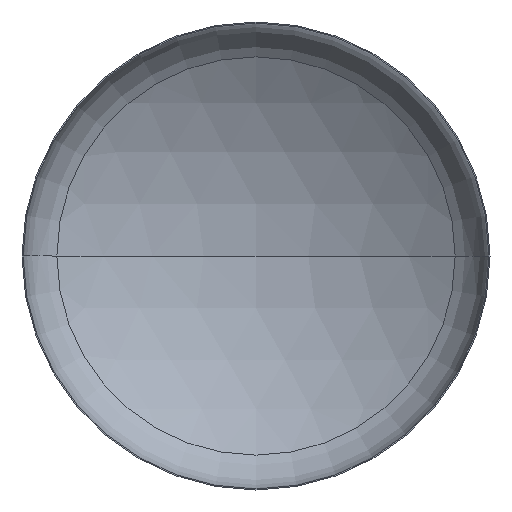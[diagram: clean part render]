
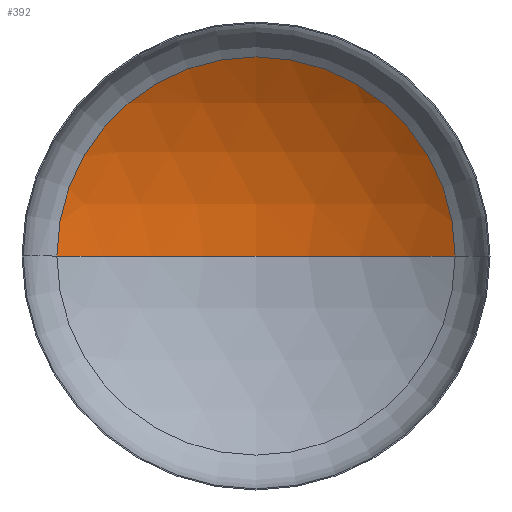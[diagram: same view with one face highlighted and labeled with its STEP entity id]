
A CAD part, front view. The second image highlights one B-rep face of the part: STEP entity #392.
In plain terms, the highlighted spherical face has radius 4800 mm.
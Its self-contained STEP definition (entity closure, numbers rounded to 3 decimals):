
#22 = VERTEX_POINT ( 'NONE', #223 ) ;
#32 = AXIS2_PLACEMENT_3D ( 'NONE', #56, #52, #285 ) ;
#39 = DIRECTION ( 'NONE',  ( 0., -1., 0. ) ) ;
#40 = DIRECTION ( 'NONE',  ( 0., 0., 1. ) ) ;
#51 = VERTEX_POINT ( 'NONE', #199 ) ;
#52 = DIRECTION ( 'NONE',  ( 0., 0., -1. ) ) ;
#56 = CARTESIAN_POINT ( 'NONE',  ( 0., -3236.448, 0. ) ) ;
#74 = FACE_OUTER_BOUND ( 'NONE', #90, .T. ) ;
#76 = ORIENTED_EDGE ( 'NONE', *, *, #349, .T. ) ;
#87 = ORIENTED_EDGE ( 'NONE', *, *, #332, .T. ) ;
#90 = EDGE_LOOP ( 'NONE', ( #399, #87, #76 ) ) ;
#96 = CARTESIAN_POINT ( 'NONE',  ( 0., 828.314, 0. ) ) ;
#98 = VERTEX_POINT ( 'NONE', #167 ) ;
#104 = DIRECTION ( 'NONE',  ( 1., 0., 0. ) ) ;
#111 = CARTESIAN_POINT ( 'NONE',  ( 0., -3236.448, 0. ) ) ;
#127 = CIRCLE ( 'NONE', #258, 4800. ) ;
#167 = CARTESIAN_POINT ( 'NONE',  ( 2552.981, 828.314, 0. ) ) ;
#173 = DIRECTION ( 'NONE',  ( -1., 0., 0. ) ) ;
#175 = CARTESIAN_POINT ( 'NONE',  ( 0., -3236.448, 0. ) ) ;
#199 = CARTESIAN_POINT ( 'NONE',  ( 0., 1563.552, 0. ) ) ;
#223 = CARTESIAN_POINT ( 'NONE',  ( -2552.981, 828.314, 0. ) ) ;
#258 = AXIS2_PLACEMENT_3D ( 'NONE', #175, #40, #278 ) ;
#265 = CIRCLE ( 'NONE', #294, 4800. ) ;
#278 = DIRECTION ( 'NONE',  ( 1., 0., 0. ) ) ;
#285 = DIRECTION ( 'NONE',  ( -1., 0., 0. ) ) ;
#294 = AXIS2_PLACEMENT_3D ( 'NONE', #111, #308, #173 ) ;
#308 = DIRECTION ( 'NONE',  ( 0., 0., -1. ) ) ;
#310 = EDGE_CURVE ( 'NONE', #51, #22, #127, .T. ) ;
#324 = SPHERICAL_SURFACE ( 'NONE', #32, 4800. ) ;
#332 = EDGE_CURVE ( 'NONE', #51, #98, #265, .T. ) ;
#335 = AXIS2_PLACEMENT_3D ( 'NONE', #96, #39, #104 ) ;
#349 = EDGE_CURVE ( 'NONE', #98, #22, #395, .T. ) ;
#392 = ADVANCED_FACE ( 'NONE', ( #74 ), #324, .F. ) ;
#395 = CIRCLE ( 'NONE', #335, 2552.981 ) ;
#399 = ORIENTED_EDGE ( 'NONE', *, *, #310, .F. ) ;
